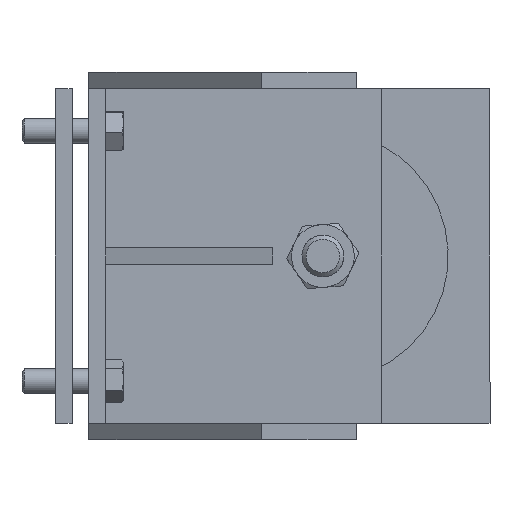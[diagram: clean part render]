
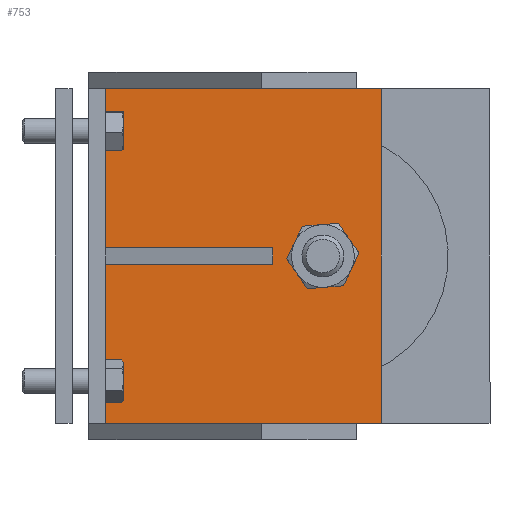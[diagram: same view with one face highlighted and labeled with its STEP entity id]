
A CAD part, front view. The second image highlights one B-rep face of the part: STEP entity #753.
In plain terms, the highlighted planar face has unit normal (0, -1, 0) as drawn and (1, 0, 0) by its records, which use the part's own axes.
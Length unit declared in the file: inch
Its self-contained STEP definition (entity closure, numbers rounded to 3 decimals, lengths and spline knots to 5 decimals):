
#592=CARTESIAN_POINT('',(0.25,0.,-1.5625));
#593=VERTEX_POINT('',#592);
#594=CARTESIAN_POINT('',(0.25,0.0,-1.1875));
#595=DIRECTION('',(-1.0,0.0,0.0));
#596=DIRECTION('',(0.0,0.0,1.0));
#597=AXIS2_PLACEMENT_3D('',#594,#595,#596);
#598=CIRCLE('',#597,0.375);
#599=EDGE_CURVE('',#593,#593,#598,.T.);
#620=CARTESIAN_POINT('',(0.25,2.5,2.0625));
#621=VERTEX_POINT('',#620);
#622=CARTESIAN_POINT('',(0.25,2.5,-2.0625));
#623=VERTEX_POINT('',#622);
#624=CARTESIAN_POINT('',(0.25,2.5,2.0625));
#625=DIRECTION('',(0.0,0.0,-1.0));
#626=VECTOR('',#625,4.125);
#627=LINE('',#624,#626);
#628=EDGE_CURVE('',#621,#623,#627,.T.);
#660=CARTESIAN_POINT('',(0.25,-2.5,-2.0625));
#661=VERTEX_POINT('',#660);
#662=CARTESIAN_POINT('',(0.25,2.5,-2.0625));
#663=DIRECTION('',(0.0,-1.0,0.0));
#664=VECTOR('',#663,5.0);
#665=LINE('',#662,#664);
#666=EDGE_CURVE('',#623,#661,#665,.T.);
#691=CARTESIAN_POINT('',(0.25,-2.5,2.0625));
#692=VERTEX_POINT('',#691);
#693=CARTESIAN_POINT('',(0.25,-2.5,-2.0625));
#694=DIRECTION('',(0.0,0.0,1.0));
#695=VECTOR('',#694,4.125);
#696=LINE('',#693,#695);
#697=EDGE_CURVE('',#661,#692,#696,.T.);
#722=CARTESIAN_POINT('',(0.25,-2.5,2.0625));
#723=DIRECTION('',(0.0,1.0,0.0));
#724=VECTOR('',#723,5.);
#725=LINE('',#722,#724);
#726=EDGE_CURVE('',#692,#621,#725,.T.);
#739=CARTESIAN_POINT('',(0.25,0.0,0.));
#740=DIRECTION('',(1.0,0.0,0.0));
#741=DIRECTION('',(0.0,0.0,-1.0));
#742=AXIS2_PLACEMENT_3D('',#739,#740,#741);
#743=PLANE('',#742);
#744=ORIENTED_EDGE('',*,*,#628,.F.);
#745=ORIENTED_EDGE('',*,*,#726,.F.);
#746=ORIENTED_EDGE('',*,*,#697,.F.);
#747=ORIENTED_EDGE('',*,*,#666,.F.);
#748=EDGE_LOOP('',(#744,#745,#746,#747));
#749=FACE_OUTER_BOUND('',#748,.T.);
#750=ORIENTED_EDGE('',*,*,#599,.T.);
#751=EDGE_LOOP('',(#750));
#752=FACE_BOUND('',#751,.T.);
#753=ADVANCED_FACE('',(#749,#752),#743,.T.);
